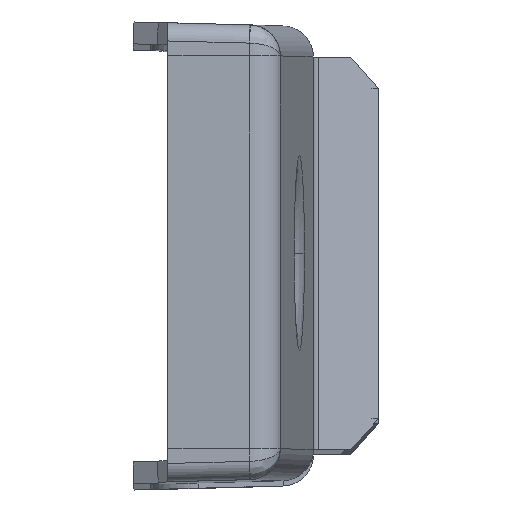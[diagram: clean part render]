
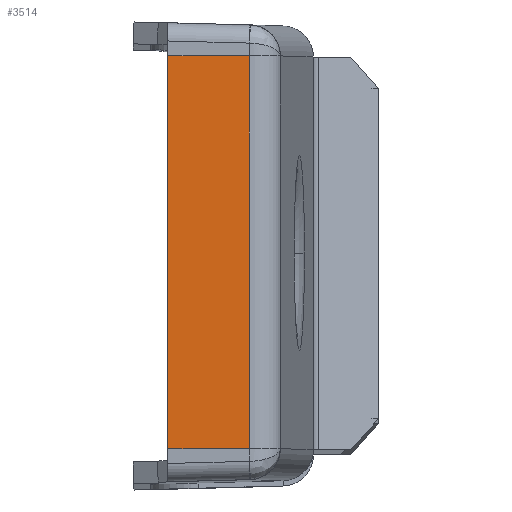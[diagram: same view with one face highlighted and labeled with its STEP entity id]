
A CAD part, top view. The second image highlights one B-rep face of the part: STEP entity #3514.
In plain terms, the highlighted planar face has unit normal (0, 0, 1) as drawn and (1, -0.029, 0) by its records, which use the part's own axes.
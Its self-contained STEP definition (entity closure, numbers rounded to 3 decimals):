
#376 = PLANE ( 'NONE',  #1329 ) ;
#410 = CARTESIAN_POINT ( 'NONE',  ( 36.081, -1.058, 0. ) ) ;
#498 = LINE ( 'NONE', #5991, #722 ) ;
#645 = DIRECTION ( 'NONE',  ( 0., 0., 1. ) ) ;
#658 = VERTEX_POINT ( 'NONE', #3411 ) ;
#722 = VECTOR ( 'NONE', #5378, 1000. ) ;
#1329 = AXIS2_PLACEMENT_3D ( 'NONE', #410, #2401, #5316 ) ;
#1398 = VECTOR ( 'NONE', #645, 1000. ) ;
#1723 = VECTOR ( 'NONE', #2289, 1000. ) ;
#1796 = CARTESIAN_POINT ( 'NONE',  ( 35.934, -6.208, 1.687 ) ) ;
#1956 = EDGE_CURVE ( 'NONE', #3536, #658, #498, .T. ) ;
#2115 = LINE ( 'NONE', #3069, #2771 ) ;
#2289 = DIRECTION ( 'NONE',  ( -0.029, -1., 0. ) ) ;
#2401 = DIRECTION ( 'NONE',  ( 1., -0.029, 0. ) ) ;
#2771 = VECTOR ( 'NONE', #6084, 1000. ) ;
#2932 = ORIENTED_EDGE ( 'NONE', *, *, #1956, .T. ) ;
#2971 = VERTEX_POINT ( 'NONE', #6371 ) ;
#3069 = CARTESIAN_POINT ( 'NONE',  ( 36.075, -1.269, 23.213 ) ) ;
#3411 = CARTESIAN_POINT ( 'NONE',  ( 36.062, -1.743, 23.213 ) ) ;
#3514 = ADVANCED_FACE ( 'NONE', ( #3844 ), #376, .T. ) ;
#3536 = VERTEX_POINT ( 'NONE', #6335 ) ;
#3601 = ORIENTED_EDGE ( 'NONE', *, *, #3778, .F. ) ;
#3723 = EDGE_LOOP ( 'NONE', ( #3601, #2932, #5357, #5952 ) ) ;
#3778 = EDGE_CURVE ( 'NONE', #3536, #2971, #4844, .T. ) ;
#3844 = FACE_OUTER_BOUND ( 'NONE', #3723, .T. ) ;
#4040 = EDGE_CURVE ( 'NONE', #4292, #658, #2115, .T. ) ;
#4292 = VERTEX_POINT ( 'NONE', #5876 ) ;
#4844 = LINE ( 'NONE', #1796, #1723 ) ;
#5073 = CARTESIAN_POINT ( 'NONE',  ( 35.934, -6.208, 23.213 ) ) ;
#5168 = LINE ( 'NONE', #5073, #1398 ) ;
#5316 = DIRECTION ( 'NONE',  ( 0.029, 1., 0. ) ) ;
#5357 = ORIENTED_EDGE ( 'NONE', *, *, #4040, .F. ) ;
#5378 = DIRECTION ( 'NONE',  ( 0., 0., 1. ) ) ;
#5876 = CARTESIAN_POINT ( 'NONE',  ( 35.934, -6.208, 23.213 ) ) ;
#5952 = ORIENTED_EDGE ( 'NONE', *, *, #6194, .F. ) ;
#5991 = CARTESIAN_POINT ( 'NONE',  ( 36.062, -1.743, 0. ) ) ;
#6084 = DIRECTION ( 'NONE',  ( 0.029, 1., 0. ) ) ;
#6194 = EDGE_CURVE ( 'NONE', #2971, #4292, #5168, .T. ) ;
#6335 = CARTESIAN_POINT ( 'NONE',  ( 36.062, -1.743, 1.687 ) ) ;
#6371 = CARTESIAN_POINT ( 'NONE',  ( 35.934, -6.208, 1.687 ) ) ;
